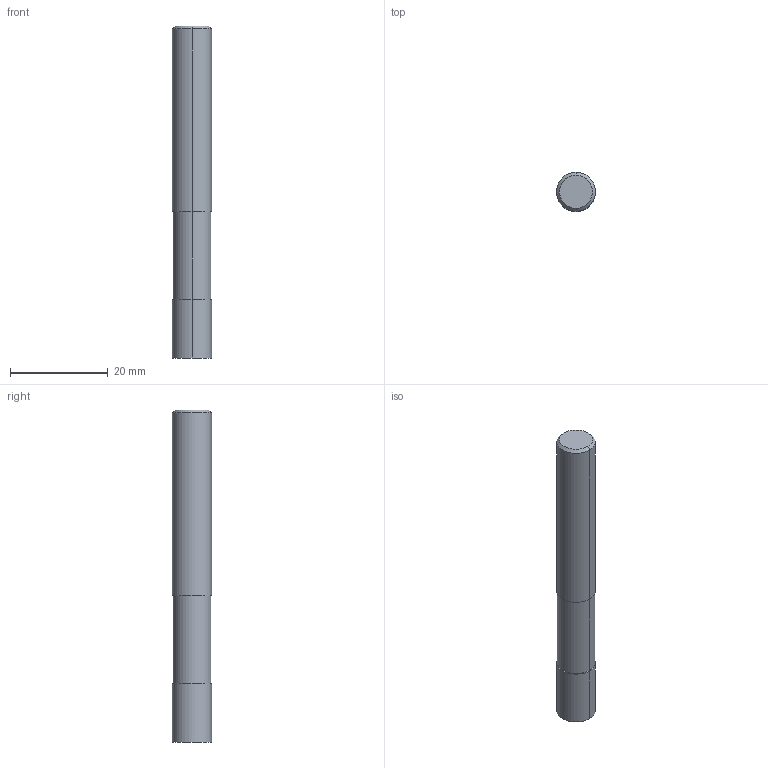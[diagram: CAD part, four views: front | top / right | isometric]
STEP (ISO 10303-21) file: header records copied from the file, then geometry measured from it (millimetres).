
FILE_DESCRIPTION((''),'2;1');
FILE_NAME('DIN4003_82_HEURO','2016-04-11T',('automc'),(''),'PRO/ENGINEER BY PARAMETRIC TECHNOLOGY CORPORATION, 2015280','PRO/ENGINEER BY PARAMETRIC TECHNOLOGY CORPORATION, 2015280','');
FILE_SCHEMA(('AUTOMOTIVE_DESIGN { 1 0 10303 214 1 1 1 1 }'));
Length unit declared in the file: millimetre
Products named in the file (1): DIN4003_82_HEURO
Bounding box: 8 x 8 x 68 mm (x, y, z)
Volume: 3347.2 mm3; surface area: 1790.7 mm2
Topology: 1 solids, 1 shells, 12 faces, 24 edges, 17 vertices
Faces by surface type: bspline 12
Entity records: 704 total; most frequent: CARTESIAN_POINT 219, DIRECTION 68, ORIENTED_EDGE 44, AXIS2_PLACEMENT_3D 26, PRESENTATION_STYLE_ASSIGNMENT 23, STYLED_ITEM 23, EDGE_CURVE 22, VECTOR 16
